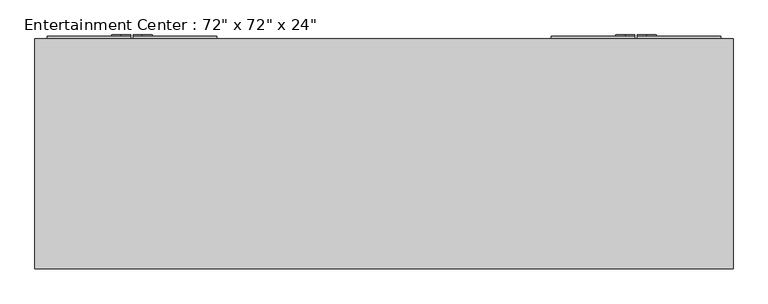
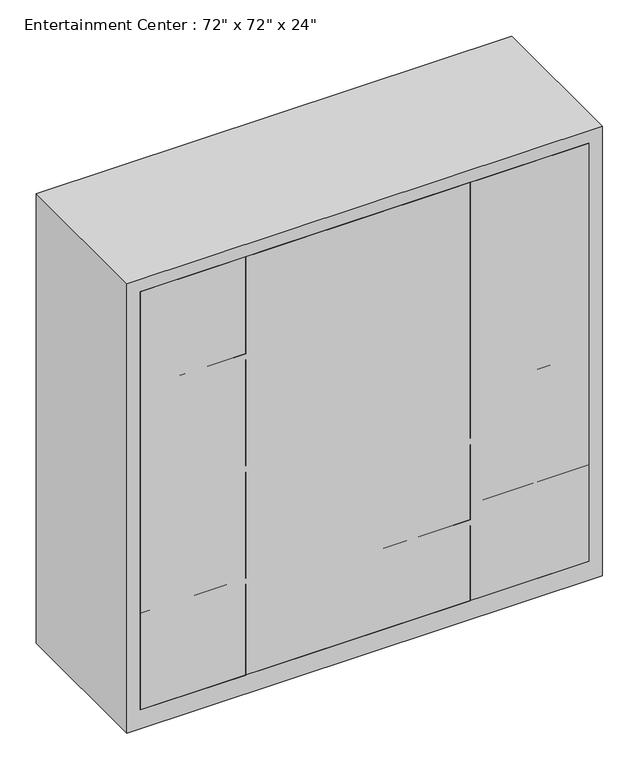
"""IFC4 building model written with IfcOpenShell, lengths in millimetres: furniture geometry."""

from ifc_helpers import new_model, si_unit, point, frame, frame_2d, origin, place, context, project, spatial, polyline, circle_curve, trimmed, segment, composite_curve, outline, extrude, source, transform, mapped, element, save


def furniture_328d9d47(model_context):
    return source(origin(), model_context, "Body", "SweptSolid", [
        extrude(outline(composite_curve([segment(polyline([(1003.3, -632.9986452), (1003.3, -657.225), (825.5, -657.225), (825.5, -632.9986452)]), True, "CONTINUOUS"), segment(trimmed(circle_curve(frame_2d((850.9, -632.9986452)), 25.4), [point((825.5, -632.9986452))], [point((850.9, -607.5986452))], False, "CARTESIAN"), True, "CONTINUOUS"), segment(polyline([(850.9, -607.5986452), (977.9, -607.5986452)]), True, "CONTINUOUS"), segment(trimmed(circle_curve(frame_2d((977.9, -632.9986452)), 25.4), [point((977.9, -607.5986452))], [point((1003.3, -632.9986452))], False, "CARTESIAN"), True, "CONTINUOUS")], self_intersect=False)), frame((0.0, 711.2, 0.0), z_axis=(0.0, 1.0, 0.0), x_axis=(0.0, 0.0, 1.0)), (0.0, 0.0, 1.0), 3.175),
        extrude(outline(composite_curve([segment(trimmed(circle_curve(frame_2d((977.9, -688.18125)), 25.4), [point((1003.3, -688.18125))], [point((977.9, -713.58125))], False, "CARTESIAN"), True, "CONTINUOUS"), segment(polyline([(977.9, -713.58125), (850.9, -713.58125)]), True, "CONTINUOUS"), segment(trimmed(circle_curve(frame_2d((850.9, -688.18125)), 25.4), [point((850.9, -713.58125))], [point((825.5, -688.18125))], False, "CARTESIAN"), True, "CONTINUOUS"), segment(polyline([(825.5, -688.18125), (825.5, -663.575), (1003.3, -663.575), (1003.3, -688.18125)]), True, "CONTINUOUS")], self_intersect=False)), frame((0.0, 711.2, 0.0), z_axis=(0.0, 1.0, 0.0), x_axis=(0.0, 0.0, 1.0)), (0.0, 0.0, 1.0), 3.175),
        extrude(outline(composite_curve([segment(trimmed(circle_curve(frame_2d((977.9, 632.9986452)), 25.4), [point((1003.3, 632.9986452))], [point((977.9, 607.5986452))], False, "CARTESIAN"), True, "CONTINUOUS"), segment(polyline([(977.9, 607.5986452), (850.9, 607.5986452)]), True, "CONTINUOUS"), segment(trimmed(circle_curve(frame_2d((850.9, 632.9986452)), 25.4), [point((850.9, 607.5986452))], [point((825.5, 632.9986452))], False, "CARTESIAN"), True, "CONTINUOUS"), segment(polyline([(825.5, 632.9986452), (825.5, 657.225), (1003.3, 657.225), (1003.3, 632.9986452)]), True, "CONTINUOUS")], self_intersect=False)), frame((0.0, 711.2, 0.0), z_axis=(0.0, 1.0, 0.0), x_axis=(0.0, 0.0, 1.0)), (0.0, 0.0, 1.0), 3.175),
        extrude(outline(composite_curve([segment(polyline([(1003.3, 688.18125), (1003.3, 663.575), (825.5, 663.575), (825.5, 688.18125)]), True, "CONTINUOUS"), segment(trimmed(circle_curve(frame_2d((850.9, 688.18125)), 25.4), [point((825.5, 688.18125))], [point((850.9, 713.58125))], False, "CARTESIAN"), True, "CONTINUOUS"), segment(polyline([(850.9, 713.58125), (977.9, 713.58125)]), True, "CONTINUOUS"), segment(trimmed(circle_curve(frame_2d((977.9, 688.18125)), 25.4), [point((977.9, 713.58125))], [point((1003.3, 688.18125))], False, "CARTESIAN"), True, "CONTINUOUS")], self_intersect=False)), frame((0.0, 711.2, 0.0), z_axis=(0.0, 1.0, 0.0), x_axis=(0.0, 0.0, 1.0)), (0.0, 0.0, 1.0), 3.175),
        extrude(outline(polyline([(-882.65, 704.85), (-882.65, 711.2), (-663.575, 711.2), (-663.575, 704.85), (-882.65, 704.85)])), frame((0.0, 0.0, 50.8), z_axis=(0.0, 0.0, 1.0), x_axis=(1.0, 0.0, 0.0)), (0.0, 0.0, 1.0), 1746.25),
        extrude(outline(polyline([(-657.225, 704.85), (-657.225, 711.2), (-438.15, 711.2), (-438.15, 704.85), (-657.225, 704.85)])), frame((0.0, 0.0, 50.8), z_axis=(0.0, 0.0, 1.0), x_axis=(1.0, 0.0, 0.0)), (0.0, 0.0, 1.0), 1746.25),
        extrude(outline(polyline([(663.575, 704.85), (663.575, 711.2), (882.65, 711.2), (882.65, 704.85), (663.575, 704.85)])), frame((0.0, 0.0, 50.8), z_axis=(0.0, 0.0, 1.0), x_axis=(1.0, 0.0, 0.0)), (0.0, 0.0, 1.0), 1746.25),
        extrude(outline(polyline([(438.15, 704.85), (438.15, 711.2), (657.225, 711.2), (657.225, 704.85), (438.15, 704.85)])), frame((0.0, 0.0, 50.8), z_axis=(0.0, 0.0, 1.0), x_axis=(1.0, 0.0, 0.0)), (0.0, 0.0, 1.0), 1746.25),
        extrude(outline(polyline([(-863.6, 101.6), (-863.6, 127.0), (863.6, 127.0), (863.6, 101.6), (-863.6, 101.6)])), frame((0.0, 0.0, 76.2), z_axis=(0.0, 0.0, 1.0), x_axis=(1.0, 0.0, 0.0)), (0.0, 0.0, 1.0), 1701.8),
        extrude(outline(polyline([(0.0, 914.4), (1828.8, 914.4), (1828.8, -914.4), (0.0, -914.4), (0.0, 914.4)]), holes=[polyline([(1778.0, -457.2), (1384.3, -457.2), (1384.3, -863.6), (1778.0, -863.6), (1778.0, -457.2)]), polyline([(76.2, -457.2), (76.2, -863.6), (444.5, -863.6), (444.5, -457.2), (76.2, -457.2)]), polyline([(1384.3, 863.6), (1384.3, 457.2), (1778.0, 457.2), (1778.0, 863.6), (1384.3, 863.6)]), polyline([(736.6, -406.4), (1778.0, -406.4), (1778.0, 406.4), (736.6, 406.4), (736.6, -406.4)]), polyline([(76.2, 406.4), (76.2, -406.4), (381.0, -406.4), (381.0, 406.4), (76.2, 406.4)]), polyline([(76.2, 863.6), (76.2, 457.2), (444.5, 457.2), (444.5, 863.6), (76.2, 863.6)]), polyline([(469.9, -863.6), (901.7, -863.6), (901.7, -457.2), (469.9, -457.2), (469.9, -863.6)]), polyline([(1358.9, -457.2), (927.1, -457.2), (927.1, -863.6), (1358.9, -863.6), (1358.9, -457.2)]), polyline([(1358.9, 457.2), (1358.9, 863.6), (927.1, 863.6), (927.1, 457.2), (1358.9, 457.2)]), polyline([(901.7, 457.2), (901.7, 863.6), (469.9, 863.6), (469.9, 457.2), (901.7, 457.2)]), polyline([(406.4, 406.4), (406.4, -406.4), (711.2, -406.4), (711.2, 406.4), (406.4, 406.4)])]), frame((0.0, 101.6, 0.0), z_axis=(0.0, 1.0, 0.0), x_axis=(0.0, 0.0, 1.0)), (0.0, 0.0, 1.0), 603.25),
    ])


if __name__ == "__main__":
    model = new_model("IFC4")
    model_context = context("Model", 3, world=origin())
    ifc_project = project(units=[si_unit("LENGTHUNIT", "METRE", prefix="MILLI")], contexts=[model_context])
    site = spatial("IfcSite", under=ifc_project)
    building = spatial("IfcBuilding", under=site)
    placement = place(None, origin())
    furniture_shape = furniture_328d9d47(model_context)
    element("IfcFurniture", 1, ObjectType="Entertainment Center : 72\" x 72\" x 24\"", at=placement, inside=building, context=model_context, shape_type="MappedRepresentation", body=[
        mapped(furniture_shape, transform((0.0, 0.0, 0.0), x_axis=(1.0, 0.0, 0.0), y_axis=(0.0, 1.0, 0.0), z_axis=(0.0, 0.0, 1.0))),
    ])
    save(model, "model.ifc")
